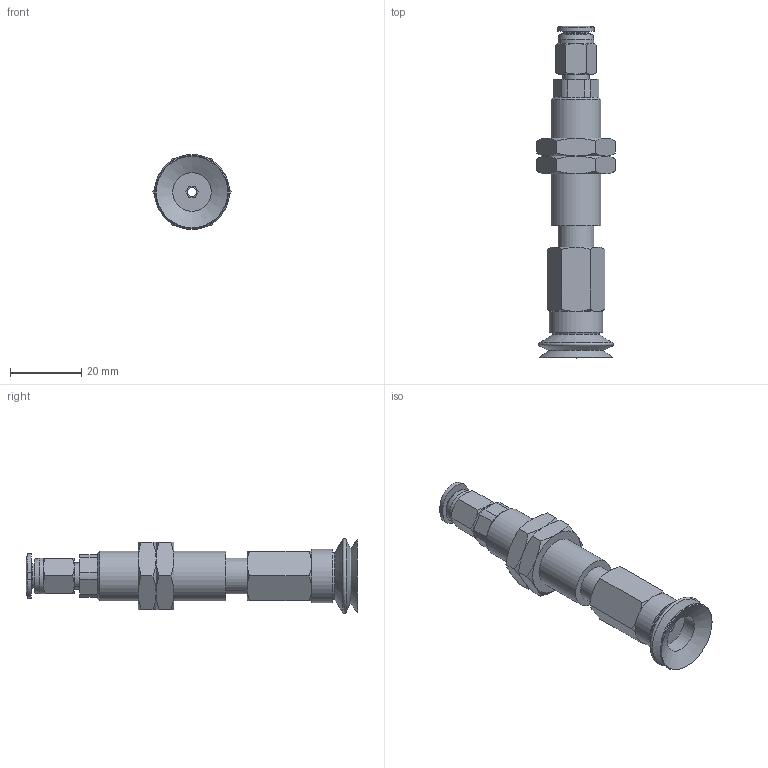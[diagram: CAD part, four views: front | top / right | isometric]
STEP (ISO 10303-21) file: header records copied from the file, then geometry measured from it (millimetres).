
FILE_DESCRIPTION(('STEP AP203'),'1');
FILE_NAME('-O.stp','2025-08-27T07:39:13',(' '),(' '),'Spatial InterOp 3D',' ',' ');
FILE_SCHEMA(('CONFIG_CONTROL_DESIGN'));
Length unit declared in the file: millimetre
Products named in the file (8): BNABPJTS-20-6-※-O; ADAPTER; NAPBTS-20-6--M; Adapter-20-NAPJ; NUT-NAPJ-20-6-s; NAPJTS-20-6-FBODY; BPJG-20-※; PC-C_06-M5
Assembly tree (8 placements, depth 2):
  BNABPJTS-20-6-※-O
    ADAPTER
    NAPBTS-20-6--M
    Adapter-20-NAPJ
    NUT-NAPJ-20-6-s  x2
    NAPJTS-20-6-FBODY
    BPJG-20-※
    PC-C_06-M5
Bounding box: 21.94 x 92.98 x 21 mm (x, y, z)
Volume: 12809.1 mm3; surface area: 11457.9 mm2
Topology: 7 solids, 10 shells, 178 faces, 374 edges, 227 vertices
Faces by surface type: plane 67, cone 65, cylinder 30, torus 9, bspline 4, revolution 3
Full cylindrical faces by diameter (mm): 2.5 x1, 3 x2, 4 x2, 4.134 x2, 4.6 x1, 5 x2, 7 x1, 7.4 x1, 8.2 x1, 10 x3, 10.8 x1, 11 x1, 13.188 x2, 14 x1, 15 x1
Entity records: 4700 total; most frequent: CARTESIAN_POINT 1309, DIRECTION 627, ORIENTED_EDGE 536, AXIS2_PLACEMENT_3D 276, EDGE_CURVE 270, EDGE_LOOP 228, VERTEX_POINT 190, FACE_OUTER_BOUND 125
